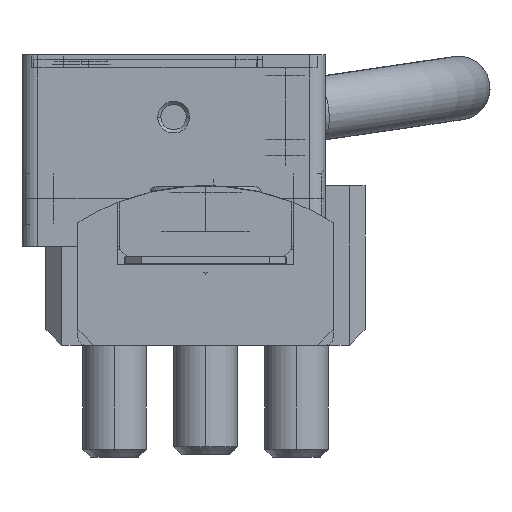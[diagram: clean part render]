
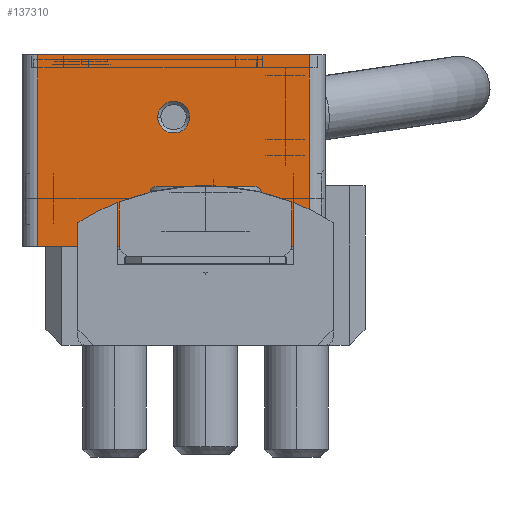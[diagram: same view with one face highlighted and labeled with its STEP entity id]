
A CAD part, left-side view. The second image highlights one B-rep face of the part: STEP entity #137310.
In plain terms, the highlighted planar face has unit normal (-1, 0, 0).
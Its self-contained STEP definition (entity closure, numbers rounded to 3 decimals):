
#118520=CARTESIAN_POINT('',(-46.,17.8,0.));
#118530=VERTEX_POINT('',#118520);
#118560=CARTESIAN_POINT('',(-46.,17.8,-6.));
#118570=DIRECTION('',(0.,0.,-1.));
#118580=VECTOR('',#118570,1.);
#118590=LINE('',#118560,#118580);
#118600=CARTESIAN_POINT('',(-46.,17.8,-12.));
#118610=VERTEX_POINT('',#118600);
#118620=EDGE_CURVE('',#118530,#118610,#118590,.T.);
#124480=CARTESIAN_POINT('',(-46.,14.272,-3.));
#124490=VERTEX_POINT('',#124480);
#124520=CARTESIAN_POINT('',(-46.,14.272,-3.006));
#124530=DIRECTION('',(0.,0.,1.));
#124540=VECTOR('',#124530,1.);
#124550=LINE('',#124520,#124540);
#124560=CARTESIAN_POINT('',(-46.,14.272,0.));
#124570=VERTEX_POINT('',#124560);
#124580=EDGE_CURVE('',#124490,#124570,#124550,.T.);
#128720=CARTESIAN_POINT('',(-46.,8.328,-3.));
#128730=VERTEX_POINT('',#128720);
#128760=CARTESIAN_POINT('',(-46.,0.,-3.));
#128770=DIRECTION('',(0.,1.,0.));
#128780=VECTOR('',#128770,1.);
#128790=LINE('',#128760,#128780);
#128800=EDGE_CURVE('',#128730,#124490,#128790,.T.);
#130280=CARTESIAN_POINT('',(-46.,0.8,0.));
#130290=VERTEX_POINT('',#130280);
#130320=CARTESIAN_POINT('',(-46.,0.,0.));
#130330=DIRECTION('',(0.,1.,0.));
#130340=VECTOR('',#130330,1.);
#130350=LINE('',#130320,#130340);
#130360=CARTESIAN_POINT('',(-46.,8.328,0.));
#130370=VERTEX_POINT('',#130360);
#130380=EDGE_CURVE('',#130290,#130370,#130350,.T.);
#130560=EDGE_CURVE('',#124570,#118530,#130350,.T.);
#134290=CARTESIAN_POINT('',(-46.,0.,-12.));
#134300=DIRECTION('',(0.,1.,0.));
#134310=VECTOR('',#134300,1.);
#134320=LINE('',#134290,#134310);
#134330=CARTESIAN_POINT('',(-46.,0.8,-12.));
#134340=VERTEX_POINT('',#134330);
#134350=EDGE_CURVE('',#134340,#118610,#134320,.T.);
#136290=CARTESIAN_POINT('',(-46.,8.328,-3.006));
#136300=DIRECTION('',(0.,0.,1.));
#136310=VECTOR('',#136300,1.);
#136320=LINE('',#136290,#136310);
#136330=EDGE_CURVE('',#128730,#130370,#136320,.T.);
#136920=CARTESIAN_POINT('',(-46.,17.8,-6.));
#136930=DIRECTION('',(-1.,0.,0.));
#136940=DIRECTION('',(0.,-1.,0.));
#136950=AXIS2_PLACEMENT_3D('',#136920,#136930,#136940);
#136960=PLANE('',#136950);
#136970=CARTESIAN_POINT('',(-46.,9.3,-8.1));
#136980=DIRECTION('',(1.,0.,0.));
#136990=DIRECTION('',(0.,0.,-1.));
#137000=AXIS2_PLACEMENT_3D('',#136970,#136980,#136990);
#137010=CIRCLE('',#137000,1.);
#137020=CARTESIAN_POINT('',(-46.,10.3,-8.1));
#137030=VERTEX_POINT('',#137020);
#137040=CARTESIAN_POINT('',(-46.,8.3,-8.1));
#137050=VERTEX_POINT('',#137040);
#137060=EDGE_CURVE('',#137030,#137050,#137010,.T.);
#137070=ORIENTED_EDGE('',*,*,#137060,.T.);
#137080=CARTESIAN_POINT('',(-46.,8.307,-8.214));
#137090=VERTEX_POINT('',#137080);
#137100=EDGE_CURVE('',#137090,#137030,#137010,.T.);
#137110=ORIENTED_EDGE('',*,*,#137100,.T.);
#137120=EDGE_CURVE('',#137050,#137090,#137010,.T.);
#137130=ORIENTED_EDGE('',*,*,#137120,.T.);
#137140=EDGE_LOOP('',(#137130,#137110,#137070));
#137150=FACE_BOUND('',#137140,.T.);
#137160=ORIENTED_EDGE('',*,*,#130560,.T.);
#137170=ORIENTED_EDGE('',*,*,#124580,.T.);
#137180=ORIENTED_EDGE('',*,*,#128800,.T.);
#137190=ORIENTED_EDGE('',*,*,#136330,.F.);
#137200=ORIENTED_EDGE('',*,*,#130380,.T.);
#137210=CARTESIAN_POINT('',(-46.,0.8,0.));
#137220=DIRECTION('',(0.,0.,-1.));
#137230=VECTOR('',#137220,1.);
#137240=LINE('',#137210,#137230);
#137250=EDGE_CURVE('',#130290,#134340,#137240,.T.);
#137260=ORIENTED_EDGE('',*,*,#137250,.F.);
#137270=ORIENTED_EDGE('',*,*,#134350,.F.);
#137280=ORIENTED_EDGE('',*,*,#118620,.T.);
#137290=EDGE_LOOP('',(#137280,#137270,#137260,#137200,#137190,#137180,
#137170,#137160));
#137300=FACE_OUTER_BOUND('',#137290,.T.);
#137310=ADVANCED_FACE('',(#137150,#137300),#136960,.T.);
